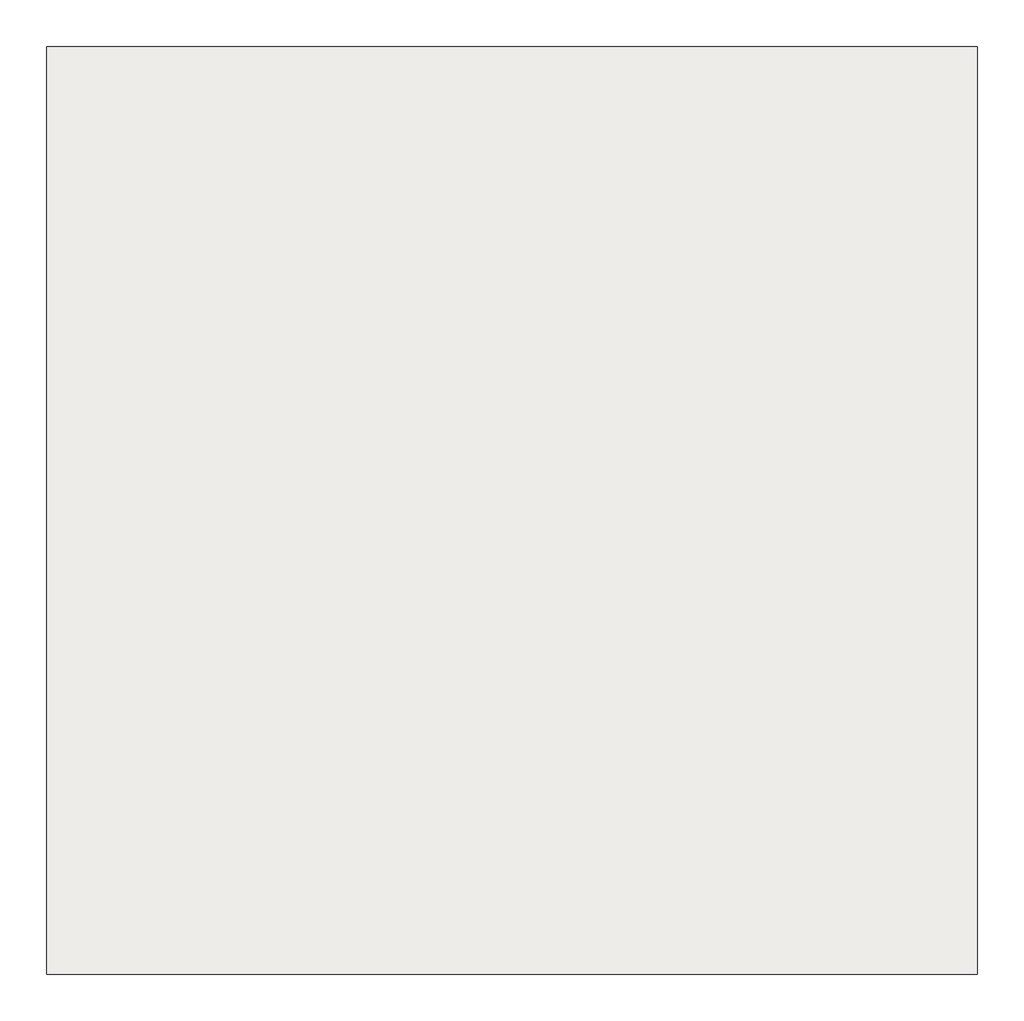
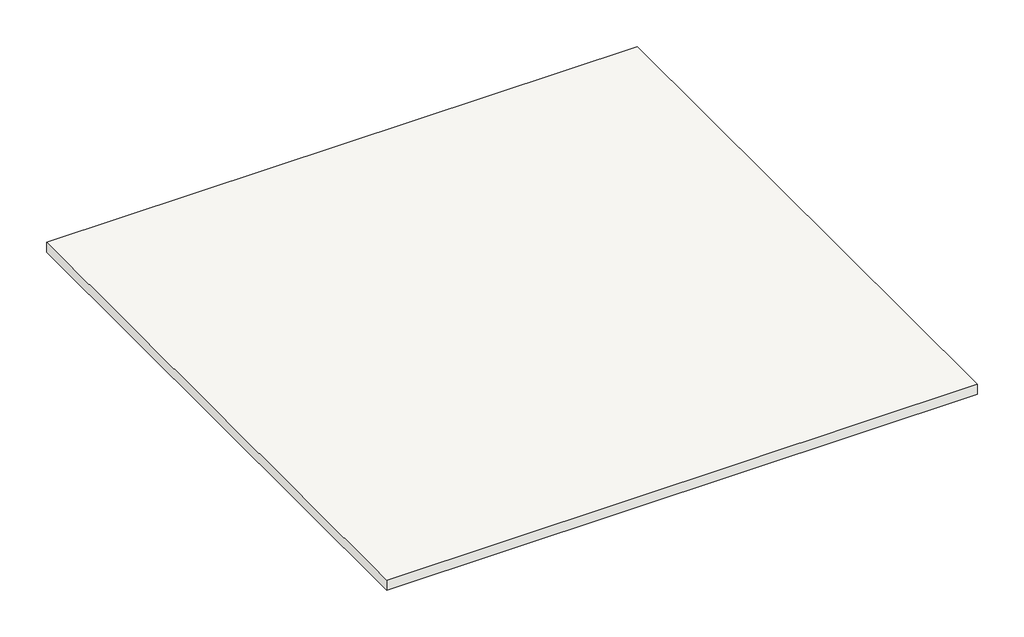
# One storey: 1 roof.
"""IFC4 building model written with IfcOpenShell, lengths in millimetres."""

from ifc_helpers import new_model, si_unit, frame, origin, place, context, project, spatial, polyline, outline, extrude, element, save

model = new_model("IFC4")

# Units and contexts
model_context = context("Model", 3, world=origin())
ifc_project = project(units=[si_unit("LENGTHUNIT", "METRE", prefix="MILLI")], contexts=[model_context])

# Site, building, storey
site = spatial("IfcSite", under=ifc_project)
building = spatial("IfcBuilding", under=site)
storey = spatial("IfcBuildingStorey", under=building, Name="T.O PARAPET", Elevation=7471.56875)

# Roof
placement = place(None, origin())
element("IfcRoof", 1, ObjectType="Generic - 14\"", at=placement, inside=storey, context=model_context, shape_type="SweptSolid", body=[
    extrude(outline(polyline([(-17229.9879871, 10002.1786668), (5401.4120129, 10002.1786668), (5401.4120129, -12553.0213332), (-17229.9879871, -12553.0213332), (-17229.9879871, 10002.1786668)])), frame((0.0, 0.0, 7471.56875), z_axis=(0.0, 0.0, 1.0), x_axis=(1.0, 0.0, 0.0)), (0.0, 0.0, 1.0), 406.4),
])

save(model, "model.ifc")
